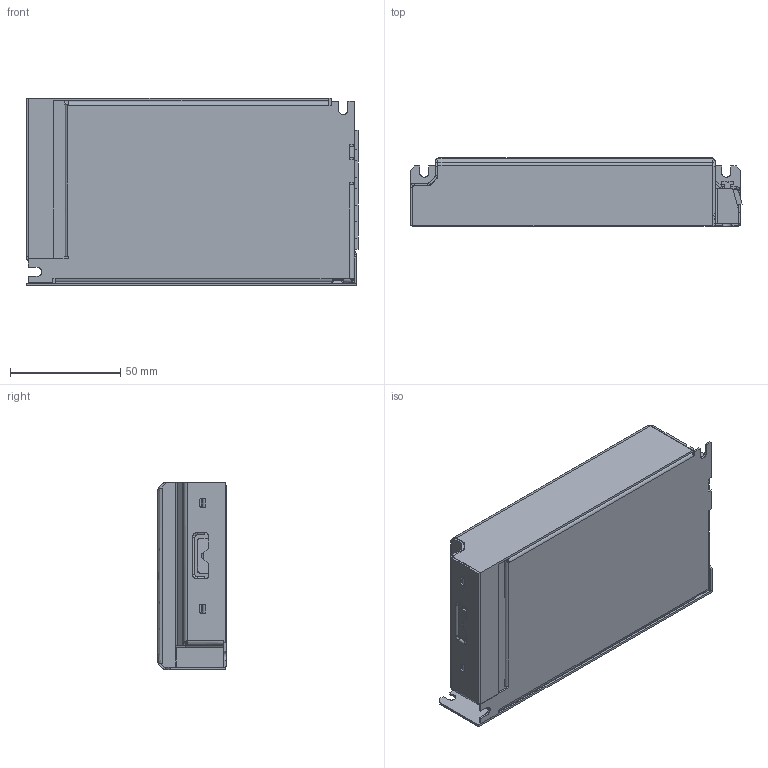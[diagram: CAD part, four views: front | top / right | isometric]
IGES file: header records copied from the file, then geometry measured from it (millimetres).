
Start section: SolidWorks IGES file using analytic representation for surfaces
Global section: file name: I:\OSRAM_SOLIDWORKS\Osram_Arbeit\pti150\PTi 150 Assembly_neu.IGS; native system: SolidWorks 2007; preprocessor: SolidWorks 2007; author: inventor; date: 080822.115331; units: millimetre
Bounding box: 150.69 x 31 x 85 mm (x, y, z)
Surface area: 129172.9 mm2 (no closed solid volume)
Topology: 0 solids, 0 shells, 979 faces, 6784 edges, 6779 vertices
Faces by surface type: bspline 748, revolution 231
